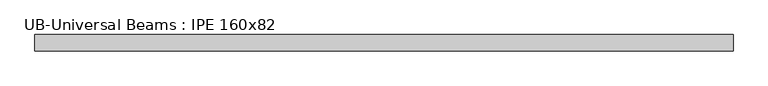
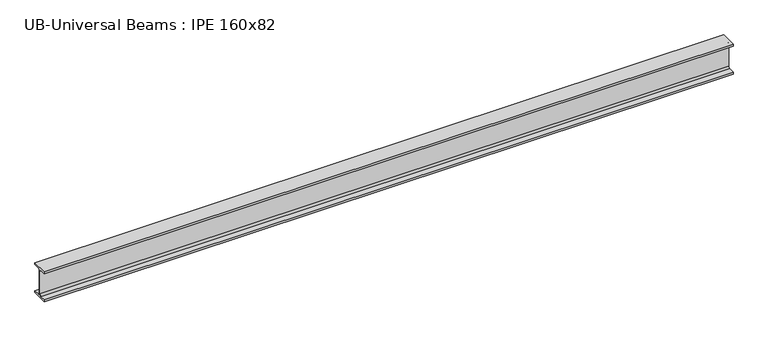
"""IFC4 building model written with IfcOpenShell, lengths in millimetres: beam geometry, UB-Universal Beams : IPE 160x82."""

from ifc_helpers import new_model, si_unit, point, frame, frame_2d, origin, place, context, project, spatial, polyline, circle_curve, trimmed, segment, composite_curve, outline, extrude, source, transform, mapped, element, save


def ub_universal_beams_ipe_160x82_16e40fe9(model_context):
    return source(origin(), model_context, "Body", "SweptSolid", [
        extrude(outline(composite_curve([segment(polyline([(-41.0, -69.8), (-11.9, -69.8)]), True, "CONTINUOUS"), segment(trimmed(circle_curve(frame_2d((-11.9, -60.9)), 8.9), [point((-11.9, -69.8))], [point((-3.0, -60.9))], True, "CARTESIAN"), True, "CONTINUOUS"), segment(polyline([(-3.0, -60.9), (-3.0, 60.9)]), True, "CONTINUOUS"), segment(trimmed(circle_curve(frame_2d((-11.9, 60.9)), 8.9), [point((-3.0, 60.9))], [point((-11.9, 69.8))], True, "CARTESIAN"), True, "CONTINUOUS"), segment(polyline([(-11.9, 69.8), (-41.0, 69.8), (-41.0, 80.0), (41.0, 80.0), (41.0, 69.8), (11.9, 69.8)]), True, "CONTINUOUS"), segment(trimmed(circle_curve(frame_2d((11.9, 60.9)), 8.9), [point((11.9, 69.8))], [point((3.0, 60.9))], True, "CARTESIAN"), True, "CONTINUOUS"), segment(polyline([(3.0, 60.9), (3.0, -60.9)]), True, "CONTINUOUS"), segment(trimmed(circle_curve(frame_2d((11.9, -60.9)), 8.9), [point((3.0, -60.9))], [point((11.9, -69.8))], True, "CARTESIAN"), True, "CONTINUOUS"), segment(polyline([(11.9, -69.8), (41.0, -69.8), (41.0, -80.0), (-41.0, -80.0), (-41.0, -69.8)]), True, "CONTINUOUS")], self_intersect=False)), frame((-1742.9, 0.0, 0.0), z_axis=(1.0, 0.0, 0.0), x_axis=(0.0, 1.0, 0.0)), (0.0, 0.0, 1.0), 3485.8),
    ])


if __name__ == "__main__":
    model = new_model("IFC4")
    model_context = context("Model", 3, world=origin())
    ifc_project = project(units=[si_unit("LENGTHUNIT", "METRE", prefix="MILLI")], contexts=[model_context])
    site = spatial("IfcSite", under=ifc_project)
    building = spatial("IfcBuilding", under=site)
    placement = place(None, origin())
    ub_universal_beams_ipe_160x82_shape = ub_universal_beams_ipe_160x82_16e40fe9(model_context)
    element("IfcBeam", 1, ObjectType="UB-Universal Beams : IPE 160x82", at=placement, inside=building, context=model_context, shape_type="MappedRepresentation", body=[
        mapped(ub_universal_beams_ipe_160x82_shape, transform((0.0, 0.0, 0.0), x_axis=(1.0, 0.0, 0.0), y_axis=(0.0, 1.0, 0.0), z_axis=(0.0, 0.0, 1.0))),
    ])
    save(model, "model.ifc")
